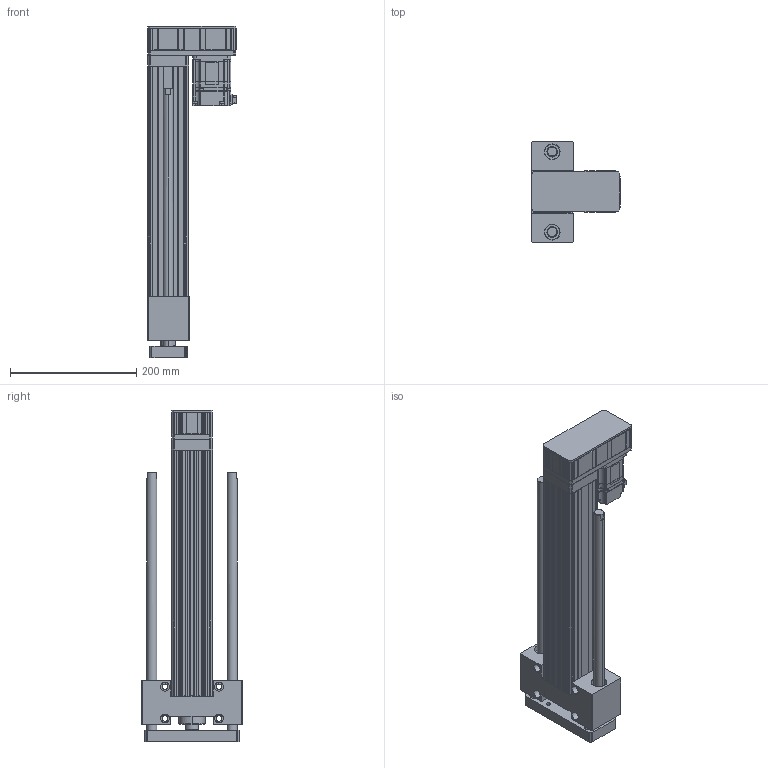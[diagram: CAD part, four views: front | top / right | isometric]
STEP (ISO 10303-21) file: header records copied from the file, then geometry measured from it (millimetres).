
FILE_DESCRIPTION (( 'STEP AP203' ), '1' );
FILE_NAME ('ANS065-HP300-05(10)-W20.STEP', '2019-03-01T05:50:16', ( 'user' ), ( '' ), 'SwSTEP 2.0', 'SolidWorks 2013', '' );
FILE_SCHEMA (( 'CONFIG_CONTROL_DESIGN' ));
Length unit declared in the file: millimetre
Products named in the file (4): ANS065 HP300 VER2; ANS065 ROD ST300 G; sgmjv_02a_a21; ANS065-HP300-05(10)-W20
Assembly tree (3 placements, depth 2):
  ANS065-HP300-05(10)-W20
    ANS065 HP300 VER2
    ANS065 ROD ST300 G
    sgmjv_02a_a21
Bounding box: 140.3 x 160 x 524.5 mm (x, y, z)
Volume: 2147089.6 mm3; surface area: 517328.5 mm2
Topology: 3 solids, 7 shells, 1458 faces, 3875 edges, 2502 vertices
Faces by surface type: plane 896, cylinder 452, cone 110
Entity records: 45387 total; most frequent: CARTESIAN_POINT 8127, ORIENTED_EDGE 7710, DIRECTION 7657, EDGE_CURVE 3855, VECTOR 2793, LINE 2793, VERTEX_POINT 2502, AXIS2_PLACEMENT_3D 2432
